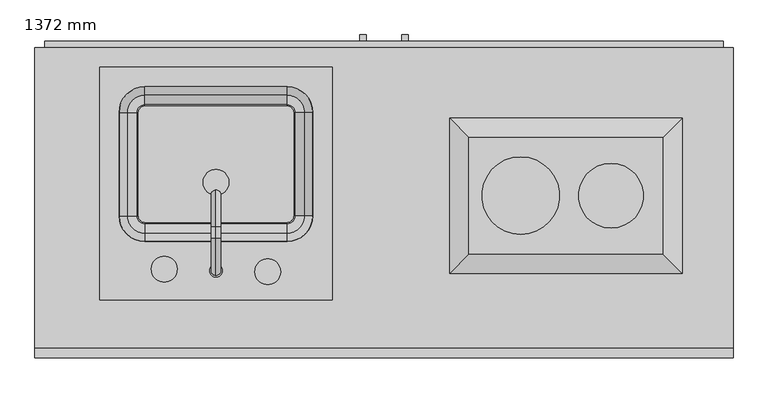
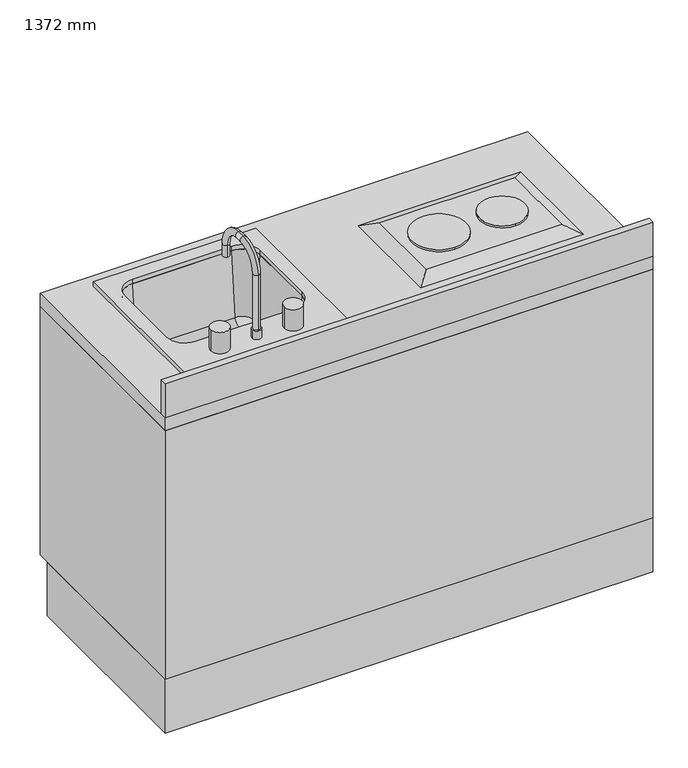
"""IFC4 building model written with IfcOpenShell, lengths in millimetres: proxy geometry, Kitchenette - Petite : 1372 mm."""

from ifc_helpers import new_model, si_unit, point, frame, frame_2d, origin, origin_with_axes, place, context, project, spatial, polyline, circle_curve, ellipse_curve, trimmed, segment, composite_curve, outline, extrude, faceted_brep, source, transform, mapped, element, save
from ifc_brep_helpers import plane_surface, cylinder_surface, revolved_surface, advanced_brep


def proxy_1372_mm_d0553526(model_context):
    return source(origin(), model_context, "Body", "SolidModel", [
        extrude(outline(composite_curve([segment(trimmed(circle_curve(frame_2d((287.2252049, 319.05)), 76.2), [point((287.2252049, 242.85))], [point((287.2252049, 395.25))], False, "CARTESIAN"), True, "CONTINUOUS"), segment(trimmed(circle_curve(frame_2d((287.2252049, 319.05)), 76.2), [point((287.2252049, 395.25))], [point((287.2252049, 242.85))], False, "CARTESIAN"), True, "CONTINUOUS")], self_intersect=False)), frame((0.0, 0.0, 957.15), z_axis=(0.0, 0.0, 1.0), x_axis=(1.0, 0.0, 0.0)), (0.0, 0.0, 1.0), 6.35),
        extrude(outline(composite_curve([segment(trimmed(circle_curve(frame_2d((464.8252049, 319.05)), 63.5), [point((464.8252049, 255.55))], [point((464.8252049, 382.55))], False, "CARTESIAN"), True, "CONTINUOUS"), segment(trimmed(circle_curve(frame_2d((464.8252049, 319.05)), 63.5), [point((464.8252049, 382.55))], [point((464.8252049, 255.55))], False, "CARTESIAN"), True, "CONTINUOUS")], self_intersect=False)), frame((0.0, 0.0, 957.15), z_axis=(0.0, 0.0, 1.0), x_axis=(1.0, 0.0, 0.0)), (0.0, 0.0, 1.0), 6.35),
        faceted_brep([(185.6252049, 204.65, 957.15), (566.4252049, 204.65, 957.15), (566.4252049, 433.55, 957.15), (185.6252049, 433.55, 957.15), (147.5252049, 166.55, 938.1), (147.5252049, 471.55, 938.1), (604.5252049, 471.55, 938.1), (604.5252049, 166.55, 938.1)], [[[0, 1, 2, 3]], [[4, 5, 6, 7]], [[4, 0, 3, 5]], [[5, 3, 2, 6]], [[6, 2, 1, 7]], [[7, 1, 0, 4]]]),
        extrude(outline(composite_curve([segment(trimmed(circle_curve(frame_2d((-311.4622951, 171.45)), 12.7), [point((-324.1622951, 171.45))], [point((-298.7622951, 171.45))], False, "CARTESIAN"), True, "CONTINUOUS"), segment(trimmed(circle_curve(frame_2d((-311.4622951, 171.45)), 12.7), [point((-298.7622951, 171.45))], [point((-324.1622951, 171.45))], False, "CARTESIAN"), True, "CONTINUOUS")], self_intersect=False)), frame((0.0, 0.0, 950.8), z_axis=(0.0, 0.0, 1.0), x_axis=(1.0, 0.0, 0.0)), (0.0, 0.0, 1.0), 25.4),
        advanced_brep(
        [(-311.4622951, 161.925, 950.8), (-311.4622951, 180.975, 950.8), (-311.4622951, 180.975, 1138.125), (-311.4622951, 161.925, 1138.125), (-311.4622951, 234.95, 1192.1), (-311.4622951, 234.95, 1211.15), (-311.4622951, 257.175, 1192.1), (-311.4622951, 257.175, 1211.15), (-311.4622951, 311.15, 1138.125), (-311.4622951, 330.2, 1138.125), (-311.4622951, 330.2, 1103.2), (-311.4622951, 311.15, 1103.2)],
        [
            (0, 1, circle_curve(frame((-311.4622951, 171.45, 950.8), z_axis=(0.0, 0.0, -1.0), x_axis=(0.0, 1.0, 0.0)), 9.525)),
            (1, 0, circle_curve(frame((-311.4622951, 171.45, 950.8), z_axis=(0.0, 0.0, -1.0), x_axis=(0.0, 1.0, 0.0)), 9.525)),
            (1, 2),
            (2, 3, circle_curve(frame((-311.4622951, 171.45, 1138.125), z_axis=(0.0, 0.0, -1.0), x_axis=(0.0, 1.0, 0.0)), 9.525)),
            (3, 0),
            (3, 2, circle_curve(frame((-311.4622951, 171.45, 1138.125), z_axis=(0.0, 0.0, -1.0), x_axis=(0.0, 1.0, 0.0)), 9.525)),
            (4, 5, circle_curve(frame((-311.4622951, 234.95, 1201.625), z_axis=(0.0, -1.0, 0.0), x_axis=(0.0, 0.0, -1.0)), 9.525)),
            (5, 3, circle_curve(frame((-311.4622951, 234.95, 1138.125), z_axis=(1.0, 0.0, 0.0), x_axis=(0.0, -1.0, 0.0)), 73.025)),
            (2, 4, circle_curve(frame((-311.4622951, 234.95, 1138.125), z_axis=(-1.0, 0.0, 0.0), x_axis=(0.0, -1.0, 0.0)), 53.975)),
            (5, 4, circle_curve(frame((-311.4622951, 234.95, 1201.625), z_axis=(0.0, -1.0, 0.0), x_axis=(0.0, 0.0, -1.0)), 9.525)),
            (4, 6),
            (6, 7, circle_curve(frame((-311.4622951, 257.175, 1201.625), z_axis=(0.0, -1.0, 0.0), x_axis=(0.0, 0.0, -1.0)), 9.525)),
            (7, 5),
            (7, 6, circle_curve(frame((-311.4622951, 257.175, 1201.625), z_axis=(0.0, -1.0, 0.0), x_axis=(0.0, 0.0, -1.0)), 9.525)),
            (8, 9, circle_curve(frame((-311.4622951, 320.675, 1138.125), z_axis=(0.0, 0.0, 1.0), x_axis=(0.0, -1.0, 0.0)), 9.525)),
            (9, 7, circle_curve(frame((-311.4622951, 257.175, 1138.125), z_axis=(1.0, 0.0, 0.0), x_axis=(0.0, 0.0, 1.0)), 73.025)),
            (6, 8, circle_curve(frame((-311.4622951, 257.175, 1138.125), z_axis=(-1.0, 0.0, 0.0), x_axis=(0.0, 0.0, 1.0)), 53.975)),
            (9, 8, circle_curve(frame((-311.4622951, 320.675, 1138.125), z_axis=(0.0, 0.0, 1.0), x_axis=(0.0, -1.0, 0.0)), 9.525)),
            (10, 11, circle_curve(frame((-311.4622951, 320.675, 1103.2), z_axis=(0.0, 0.0, -1.0), x_axis=(0.0, -1.0, 0.0)), 9.525)),
            (11, 10, circle_curve(frame((-311.4622951, 320.675, 1103.2), z_axis=(0.0, 0.0, -1.0), x_axis=(0.0, -1.0, 0.0)), 9.525)),
            (8, 11),
            (10, 9),
        ],
        [
            plane_surface(frame((-311.4622951, 180.975, 950.8), z_axis=(0.0, 0.0, -1.0), x_axis=(1.0, 0.0, 0.0))),
            cylinder_surface(frame((-311.4622951, 171.45, 950.8), z_axis=(0.0, 0.0, -1.0), x_axis=(0.0, 1.0, 0.0)), 9.525),
            revolved_surface(trimmed(ellipse_curve(frame((-311.4622951, 171.45, 1138.125), z_axis=(0.0, 0.0, 1.0), x_axis=(0.0, 1.0, 0.0)), 9.525, 9.525), [point((-311.4622951, 161.925, 1138.125))], [point((-311.4622951, 180.975, 1138.125))], True, "CARTESIAN"), (-311.4622951, 234.95, 1138.125), (1.0, 0.0, 0.0)),
            revolved_surface(trimmed(ellipse_curve(frame((-311.4622951, 171.45, 1138.125), z_axis=(0.0, 0.0, 1.0), x_axis=(0.0, 1.0, 0.0)), 9.525, 9.525), [point((-311.4622951, 180.975, 1138.125))], [point((-311.4622951, 161.925, 1138.125))], True, "CARTESIAN"), (-311.4622951, 234.95, 1138.125), (1.0, 0.0, 0.0)),
            cylinder_surface(frame((-311.4622951, 234.95, 1201.625), z_axis=(0.0, -1.0, 0.0), x_axis=(0.0, 0.0, -1.0)), 9.525),
            revolved_surface(trimmed(ellipse_curve(frame((-311.4622951, 257.175, 1201.625), z_axis=(0.0, 1.0, 0.0), x_axis=(0.0, 0.0, -1.0)), 9.525, 9.525), [point((-311.4622951, 257.175, 1211.15))], [point((-311.4622951, 257.175, 1192.1))], True, "CARTESIAN"), (-311.4622951, 257.175, 1138.125), (1.0, 0.0, 0.0)),
            revolved_surface(trimmed(ellipse_curve(frame((-311.4622951, 257.175, 1201.625), z_axis=(0.0, 1.0, 0.0), x_axis=(0.0, 0.0, -1.0)), 9.525, 9.525), [point((-311.4622951, 257.175, 1192.1))], [point((-311.4622951, 257.175, 1211.15))], True, "CARTESIAN"), (-311.4622951, 257.175, 1138.125), (1.0, 0.0, 0.0)),
            plane_surface(frame((-311.4622951, 330.2, 1103.2), z_axis=(0.0, 0.0, -1.0), x_axis=(-1.0, 0.0, 0.0))),
            cylinder_surface(frame((-311.4622951, 320.675, 1138.125), z_axis=(0.0, 0.0, 1.0), x_axis=(0.0, -1.0, 0.0)), 9.525),
        ],
        [
            (0, [[1, 2]]),
            (1, [[3, 4, 5, -2]]),
            (1, [[-5, 6, -3, -1]]),
            (2, [[7, 8, -4, 9]]),
            (3, [[10, -9, -6, -8]]),
            (4, [[11, 12, 13, -7]]),
            (4, [[-13, 14, -11, -10]]),
            (5, [[15, 16, -12, 17]]),
            (6, [[18, -17, -14, -16]]),
            (7, [[19, 20]]),
            (8, [[21, -19, 22, -15]]),
            (8, [[-22, -20, -21, -18]]),
        ],
    ),
        extrude(outline(composite_curve([segment(trimmed(circle_curve(frame_2d((-413.0622951, 174.5287936)), 25.4), [point((-438.4622951, 174.5287936))], [point((-387.6622951, 174.5287936))], False, "CARTESIAN"), True, "CONTINUOUS"), segment(trimmed(circle_curve(frame_2d((-413.0622951, 174.5287936)), 25.4), [point((-387.6622951, 174.5287936))], [point((-438.4622951, 174.5287936))], False, "CARTESIAN"), True, "CONTINUOUS")], self_intersect=False)), frame((0.0, 0.0, 950.8), z_axis=(0.0, 0.0, 1.0), x_axis=(1.0, 0.0, 0.0)), (0.0, 0.0, 1.0), 63.5),
        extrude(outline(composite_curve([segment(trimmed(circle_curve(frame_2d((-209.8622951, 169.3320688)), 25.4), [point((-235.2622951, 169.3320688))], [point((-184.4622951, 169.3320688))], False, "CARTESIAN"), True, "CONTINUOUS"), segment(trimmed(circle_curve(frame_2d((-209.8622951, 169.3320688)), 25.4), [point((-184.4622951, 169.3320688))], [point((-235.2622951, 169.3320688))], False, "CARTESIAN"), True, "CONTINUOUS")], self_intersect=False)), frame((0.0, 0.0, 950.8), z_axis=(0.0, 0.0, 1.0), x_axis=(1.0, 0.0, 0.0)), (0.0, 0.0, 1.0), 63.5),
        extrude(outline(composite_curve([segment(polyline([(-171.7622951, 266.7), (-451.1622951, 266.7)]), True, "CONTINUOUS"), segment(trimmed(circle_curve(frame_2d((-451.1622951, 279.4)), 12.7), [point((-451.1622951, 266.7))], [point((-463.8622951, 279.4))], False, "CARTESIAN"), True, "CONTINUOUS"), segment(polyline([(-463.8622951, 279.4), (-463.8622951, 482.6)]), True, "CONTINUOUS"), segment(trimmed(circle_curve(frame_2d((-451.1622951, 482.6)), 12.7), [point((-463.8622951, 482.6))], [point((-451.1622951, 495.3))], False, "CARTESIAN"), True, "CONTINUOUS"), segment(polyline([(-451.1622951, 495.3), (-171.7622951, 495.3)]), True, "CONTINUOUS"), segment(trimmed(circle_curve(frame_2d((-171.7622951, 482.6)), 12.7), [point((-171.7622951, 495.3))], [point((-159.0622951, 482.6))], False, "CARTESIAN"), True, "CONTINUOUS"), segment(polyline([(-159.0622951, 482.6), (-159.0622951, 279.4)]), True, "CONTINUOUS"), segment(trimmed(circle_curve(frame_2d((-171.7622951, 279.4)), 12.7), [point((-159.0622951, 279.4))], [point((-171.7622951, 266.7))], False, "CARTESIAN"), True, "CONTINUOUS")], self_intersect=False), holes=[composite_curve([segment(trimmed(circle_curve(frame_2d((-311.4622951, 345.2454011)), 25.4), [point((-336.8622951, 345.2454011))], [point((-286.0622951, 345.2454011))], True, "CARTESIAN"), True, "CONTINUOUS"), segment(trimmed(circle_curve(frame_2d((-311.4622951, 345.2454011)), 25.4), [point((-286.0622951, 345.2454011))], [point((-336.8622951, 345.2454011))], True, "CARTESIAN"), True, "CONTINUOUS")], self_intersect=False)]), frame((0.0, 0.0, 722.2), z_axis=(0.0, 0.0, 1.0), x_axis=(1.0, 0.0, 0.0)), (0.0, 0.0, 1.0), 9.525),
        advanced_brep(
        [(-114.6122951, 279.4, 722.2), (-114.6122951, 279.4, 938.1), (-171.7622951, 222.25, 938.1), (-171.7622951, 222.25, 722.2), (-159.0622951, 279.4, 722.2), (-171.7622951, 266.7, 722.2), (-159.0622951, 279.4, 731.725), (-171.7622951, 266.7, 731.725), (-156.4738769, 279.4, 731.725), (-171.7622951, 264.1115818, 731.725), (-137.4963679, 279.4, 749.1146831), (-171.7622951, 245.1340728, 749.1146831), (-120.9622951, 279.4, 938.1), (-171.7622951, 228.6, 938.1), (-114.6122951, 482.6, 722.2), (-114.6122951, 482.6, 938.1), (-159.0622951, 482.6, 722.2), (-159.0622951, 482.6, 731.725), (-156.4738769, 482.6, 731.725), (-137.4963679, 482.6, 749.1146831), (-120.9622951, 482.6, 938.1), (-171.7622951, 539.75, 722.2), (-171.7622951, 539.75, 938.1), (-171.7622951, 495.3, 722.2), (-171.7622951, 495.3, 731.725), (-171.7622951, 497.8884182, 731.725), (-171.7622951, 516.8659272, 749.1146831), (-171.7622951, 533.4, 938.1), (-451.1622951, 539.75, 722.2), (-451.1622951, 539.75, 938.1), (-451.1622951, 495.3, 722.2), (-451.1622951, 495.3, 731.725), (-451.1622951, 497.8884182, 731.725), (-451.1622951, 516.8659272, 749.1146831), (-451.1622951, 533.4, 938.1), (-508.3122951, 482.6, 722.2), (-508.3122951, 482.6, 938.1), (-463.8622951, 482.6, 722.2), (-463.8622951, 482.6, 731.725), (-466.4507133, 482.6, 731.725), (-485.4282223, 482.6, 749.1146831), (-501.9622951, 482.6, 938.1), (-508.3122951, 279.4, 722.2), (-508.3122951, 279.4, 938.1), (-463.8622951, 279.4, 722.2), (-463.8622951, 279.4, 731.725), (-466.4507133, 279.4, 731.725), (-485.4282223, 279.4, 749.1146831), (-501.9622951, 279.4, 938.1), (-451.1622951, 222.25, 722.2), (-451.1622951, 222.25, 938.1), (-451.1622951, 266.7, 722.2), (-451.1622951, 266.7, 731.725), (-451.1622951, 264.1115818, 731.725), (-451.1622951, 245.1340728, 749.1146831), (-451.1622951, 228.6, 938.1)],
        [
            (0, 1),
            (1, 2, circle_curve(frame((-171.7622951, 279.4, 938.1), z_axis=(0.0, 0.0, -1.0), x_axis=(0.0, -1.0, 0.0)), 57.15)),
            (2, 3),
            (3, 0, circle_curve(frame((-171.7622951, 279.4, 722.2), z_axis=(0.0, 0.0, 1.0), x_axis=(0.0, -1.0, 0.0)), 57.15)),
            (4, 0),
            (3, 5),
            (5, 4, circle_curve(frame((-171.7622951, 279.4, 722.2), z_axis=(0.0, 0.0, 1.0), x_axis=(0.0, -1.0, 0.0)), 12.7)),
            (6, 4),
            (5, 7),
            (7, 6, circle_curve(frame((-171.7622951, 279.4, 731.725), z_axis=(0.0, 0.0, 1.0), x_axis=(0.0, -1.0, 0.0)), 12.7)),
            (8, 6),
            (7, 9),
            (9, 8, circle_curve(frame((-171.7622951, 279.4, 731.725), z_axis=(0.0, 0.0, 1.0), x_axis=(0.0, -1.0, 0.0)), 15.2884182)),
            (10, 8, circle_curve(frame((-156.4738769, 279.4, 750.775), z_axis=(0.0, 1.0, 0.0), x_axis=(1.0, 0.0, 0.0)), 19.05)),
            (9, 11, circle_curve(frame((-171.7622951, 264.1115818, 750.775), z_axis=(-1.0, 0.0, 0.0), x_axis=(0.0, -1.0, 0.0)), 19.05)),
            (11, 10, circle_curve(frame((-171.7622951, 279.4, 749.1146831), z_axis=(0.0, 0.0, 1.0), x_axis=(0.0, -1.0, 0.0)), 34.2659272)),
            (12, 10),
            (11, 13),
            (13, 12, circle_curve(frame((-171.7622951, 279.4, 938.1), z_axis=(0.0, 0.0, 1.0), x_axis=(0.0, -1.0, 0.0)), 50.8)),
            (1, 12),
            (13, 2),
            (0, 14),
            (14, 15),
            (15, 1),
            (4, 16),
            (16, 14),
            (6, 17),
            (17, 16),
            (8, 18),
            (18, 17),
            (10, 19),
            (19, 18, circle_curve(frame((-156.4738769, 482.6, 750.775), z_axis=(0.0, 1.0, 0.0), x_axis=(1.0, 0.0, 0.0)), 19.05)),
            (12, 20),
            (20, 19),
            (15, 20),
            (21, 22),
            (22, 15, circle_curve(frame((-171.7622951, 482.6, 938.1), z_axis=(0.0, 0.0, -1.0), x_axis=(1.0, 0.0, 0.0)), 57.15)),
            (14, 21, circle_curve(frame((-171.7622951, 482.6, 722.2), z_axis=(0.0, 0.0, 1.0), x_axis=(1.0, 0.0, 0.0)), 57.15)),
            (23, 21),
            (16, 23, circle_curve(frame((-171.7622951, 482.6, 722.2), z_axis=(0.0, 0.0, 1.0), x_axis=(1.0, 0.0, 0.0)), 12.7)),
            (24, 23),
            (17, 24, circle_curve(frame((-171.7622951, 482.6, 731.725), z_axis=(0.0, 0.0, 1.0), x_axis=(1.0, 0.0, 0.0)), 12.7)),
            (25, 24),
            (18, 25, circle_curve(frame((-171.7622951, 482.6, 731.725), z_axis=(0.0, 0.0, 1.0), x_axis=(1.0, 0.0, 0.0)), 15.2884182)),
            (26, 25, circle_curve(frame((-171.7622951, 497.8884182, 750.775), z_axis=(-1.0, 0.0, 0.0), x_axis=(0.0, 1.0, 0.0)), 19.05)),
            (19, 26, circle_curve(frame((-171.7622951, 482.6, 749.1146831), z_axis=(0.0, 0.0, 1.0), x_axis=(1.0, 0.0, 0.0)), 34.2659272)),
            (27, 26),
            (20, 27, circle_curve(frame((-171.7622951, 482.6, 938.1), z_axis=(0.0, 0.0, 1.0), x_axis=(1.0, 0.0, 0.0)), 50.8)),
            (22, 27),
            (21, 28),
            (28, 29),
            (29, 22),
            (23, 30),
            (30, 28),
            (24, 31),
            (31, 30),
            (25, 32),
            (32, 31),
            (26, 33),
            (33, 32, circle_curve(frame((-451.1622951, 497.8884182, 750.775), z_axis=(-1.0, 0.0, 0.0), x_axis=(0.0, 1.0, 0.0)), 19.05)),
            (27, 34),
            (34, 33),
            (29, 34),
            (35, 36),
            (36, 29, circle_curve(frame((-451.1622951, 482.6, 938.1), z_axis=(0.0, 0.0, -1.0), x_axis=(0.0, 1.0, 0.0)), 57.15)),
            (28, 35, circle_curve(frame((-451.1622951, 482.6, 722.2), z_axis=(0.0, 0.0, 1.0), x_axis=(0.0, 1.0, 0.0)), 57.15)),
            (37, 35),
            (30, 37, circle_curve(frame((-451.1622951, 482.6, 722.2), z_axis=(0.0, 0.0, 1.0), x_axis=(0.0, 1.0, 0.0)), 12.7)),
            (38, 37),
            (31, 38, circle_curve(frame((-451.1622951, 482.6, 731.725), z_axis=(0.0, 0.0, 1.0), x_axis=(0.0, 1.0, 0.0)), 12.7)),
            (39, 38),
            (32, 39, circle_curve(frame((-451.1622951, 482.6, 731.725), z_axis=(0.0, 0.0, 1.0), x_axis=(0.0, 1.0, 0.0)), 15.2884182)),
            (40, 39, circle_curve(frame((-466.4507133, 482.6, 750.775), z_axis=(0.0, -1.0, 0.0), x_axis=(-1.0, 0.0, 0.0)), 19.05)),
            (33, 40, circle_curve(frame((-451.1622951, 482.6, 749.1146831), z_axis=(0.0, 0.0, 1.0), x_axis=(0.0, 1.0, 0.0)), 34.2659272)),
            (41, 40),
            (34, 41, circle_curve(frame((-451.1622951, 482.6, 938.1), z_axis=(0.0, 0.0, 1.0), x_axis=(0.0, 1.0, 0.0)), 50.8)),
            (36, 41),
            (35, 42),
            (42, 43),
            (43, 36),
            (37, 44),
            (44, 42),
            (38, 45),
            (45, 44),
            (39, 46),
            (46, 45),
            (40, 47),
            (47, 46, circle_curve(frame((-466.4507133, 279.4, 750.775), z_axis=(0.0, -1.0, 0.0), x_axis=(-1.0, 0.0, 0.0)), 19.05)),
            (41, 48),
            (48, 47),
            (43, 48),
            (49, 50),
            (50, 43, circle_curve(frame((-451.1622951, 279.4, 938.1), z_axis=(0.0, 0.0, -1.0), x_axis=(-1.0, 0.0, 0.0)), 57.15)),
            (42, 49, circle_curve(frame((-451.1622951, 279.4, 722.2), z_axis=(0.0, 0.0, 1.0), x_axis=(-1.0, 0.0, 0.0)), 57.15)),
            (51, 49),
            (44, 51, circle_curve(frame((-451.1622951, 279.4, 722.2), z_axis=(0.0, 0.0, 1.0), x_axis=(-1.0, 0.0, 0.0)), 12.7)),
            (52, 51),
            (45, 52, circle_curve(frame((-451.1622951, 279.4, 731.725), z_axis=(0.0, 0.0, 1.0), x_axis=(-1.0, 0.0, 0.0)), 12.7)),
            (53, 52),
            (46, 53, circle_curve(frame((-451.1622951, 279.4, 731.725), z_axis=(0.0, 0.0, 1.0), x_axis=(-1.0, 0.0, 0.0)), 15.2884182)),
            (54, 53, circle_curve(frame((-451.1622951, 264.1115818, 750.775), z_axis=(1.0, 0.0, 0.0), x_axis=(0.0, -1.0, 0.0)), 19.05)),
            (47, 54, circle_curve(frame((-451.1622951, 279.4, 749.1146831), z_axis=(0.0, 0.0, 1.0), x_axis=(-1.0, 0.0, 0.0)), 34.2659272)),
            (55, 54),
            (48, 55, circle_curve(frame((-451.1622951, 279.4, 938.1), z_axis=(0.0, 0.0, 1.0), x_axis=(-1.0, 0.0, 0.0)), 50.8)),
            (50, 55),
            (49, 3),
            (2, 50),
            (51, 5),
            (52, 7),
            (53, 9),
            (54, 11),
            (55, 13),
        ],
        [
            cylinder_surface(frame((-171.7622951, 279.4, 23.7), z_axis=(0.0, 0.0, -1.0), x_axis=(0.0, -1.0, 0.0)), 57.15),
            plane_surface(frame((-171.7622951, 279.4, 722.2), z_axis=(0.0, 0.0, -1.0), x_axis=(0.0, -1.0, 0.0))),
            revolved_surface(polyline([(-171.7622951, 266.7, 722.2), (-171.7622951, 266.7, 731.725)]), (-171.7622951, 279.4, 23.7), (0.0, 0.0, -1.0)),
            plane_surface(frame((-171.7622951, 279.4, 731.725), z_axis=(0.0, 0.0, 1.0), x_axis=(0.0, -1.0, 0.0))),
            revolved_surface(trimmed(ellipse_curve(frame((-171.7622951, 264.1115818, 750.775), z_axis=(-1.0, 0.0, 0.0), x_axis=(0.0, -1.0, 0.0)), 19.05, 19.05), [point((-171.7622951, 264.1115818, 731.725))], [point((-171.7622951, 245.1340728, 749.1146831))], True, "CARTESIAN"), (-171.7622951, 279.4, 23.7), (0.0, 0.0, -1.0)),
            revolved_surface(polyline([(-171.7622951, 245.1340728, 749.1146831), (-171.7622951, 228.6, 938.1)]), (-171.7622951, 279.4, 23.7), (0.0, 0.0, -1.0)),
            plane_surface(frame((-171.7622951, 279.4, 938.1), z_axis=(0.0, 0.0, 1.0), x_axis=(0.0, -1.0, 0.0))),
            plane_surface(frame((-114.6122951, 279.4, 938.1), z_axis=(1.0, 0.0, 0.0), x_axis=(0.0, 1.0, 0.0))),
            plane_surface(frame((-114.6122951, 279.4, 722.2), z_axis=(0.0, 0.0, -1.0), x_axis=(0.0, 1.0, 0.0))),
            plane_surface(frame((-159.0622951, 279.4, 722.2), z_axis=(-1.0, 0.0, 0.0), x_axis=(0.0, 1.0, 0.0))),
            plane_surface(frame((-159.0622951, 279.4, 731.725), z_axis=(0.0, 0.0, 1.0), x_axis=(0.0, 1.0, 0.0))),
            revolved_surface(polyline([(-137.42387689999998, 482.6, 750.775), (-137.42387689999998, 279.4, 750.775)]), (-156.4738769, 279.4, 750.775), (0.0, 1.0, 0.0)),
            plane_surface(frame((-137.4963679, 279.4, 749.1146831), z_axis=(-0.9961946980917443, 0.0, 0.08715574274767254), x_axis=(0.0, 1.0, 0.0))),
            plane_surface(frame((-120.9622951, 279.4, 938.1), z_axis=(0.0, 0.0, 1.0), x_axis=(0.0, 1.0, 0.0))),
            cylinder_surface(frame((-171.7622951, 482.6, 23.7), z_axis=(0.0, 0.0, -1.0), x_axis=(1.0, 0.0, 0.0)), 57.15),
            plane_surface(frame((-171.7622951, 482.6, 722.2), z_axis=(0.0, 0.0, -1.0), x_axis=(1.0, 0.0, 0.0))),
            revolved_surface(polyline([(-159.0622951, 482.6, 722.2), (-159.0622951, 482.6, 731.725)]), (-171.7622951, 482.6, 23.7), (0.0, 0.0, -1.0)),
            plane_surface(frame((-171.7622951, 482.6, 731.725), z_axis=(0.0, 0.0, 1.0), x_axis=(1.0, 0.0, 0.0))),
            revolved_surface(trimmed(ellipse_curve(frame((-156.4738769, 482.6, 750.775), z_axis=(0.0, -1.0, 0.0), x_axis=(1.0, 0.0, 0.0)), 19.05, 19.05), [point((-156.4738769, 482.6, 731.725))], [point((-137.4963679, 482.6, 749.1146831))], True, "CARTESIAN"), (-171.7622951, 482.6, 23.7), (0.0, 0.0, -1.0)),
            revolved_surface(polyline([(-137.4963679, 482.6, 749.1146831), (-120.9622951, 482.6, 938.1)]), (-171.7622951, 482.6, 23.7), (0.0, 0.0, -1.0)),
            plane_surface(frame((-171.7622951, 482.6, 938.1), z_axis=(0.0, 0.0, 1.0), x_axis=(1.0, 0.0, 0.0))),
            plane_surface(frame((-171.7622951, 539.75, 938.1), z_axis=(0.0, 1.0, 0.0), x_axis=(-1.0, 0.0, 0.0))),
            plane_surface(frame((-171.7622951, 539.75, 722.2), z_axis=(0.0, 0.0, -1.0), x_axis=(-1.0, 0.0, 0.0))),
            plane_surface(frame((-171.7622951, 495.3, 722.2), z_axis=(0.0, -1.0, 0.0), x_axis=(-1.0, 0.0, 0.0))),
            plane_surface(frame((-171.7622951, 495.3, 731.725), z_axis=(0.0, 0.0, 1.0), x_axis=(-1.0, 0.0, 0.0))),
            revolved_surface(polyline([(-451.16229509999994, 516.9384182, 750.775), (-171.7622951, 516.9384182, 750.775)]), (-171.7622951, 497.8884182, 750.775), (-1.0, 0.0, 0.0)),
            plane_surface(frame((-171.7622951, 516.8659272, 749.1146831), z_axis=(0.0, -0.9961946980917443, 0.08715574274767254), x_axis=(-1.0, 0.0, 0.0))),
            plane_surface(frame((-171.7622951, 533.4, 938.1), z_axis=(0.0, 0.0, 1.0), x_axis=(-1.0, 0.0, 0.0))),
            cylinder_surface(frame((-451.1622951, 482.6, 23.7), z_axis=(0.0, 0.0, -1.0), x_axis=(0.0, 1.0, 0.0)), 57.15),
            plane_surface(frame((-451.1622951, 482.6, 722.2), z_axis=(0.0, 0.0, -1.0), x_axis=(0.0, 1.0, 0.0))),
            revolved_surface(polyline([(-451.1622951, 495.3, 722.2), (-451.1622951, 495.3, 731.725)]), (-451.1622951, 482.6, 23.7), (0.0, 0.0, -1.0)),
            plane_surface(frame((-451.1622951, 482.6, 731.725), z_axis=(0.0, 0.0, 1.0), x_axis=(0.0, 1.0, 0.0))),
            revolved_surface(trimmed(ellipse_curve(frame((-451.1622951, 497.8884182, 750.775), z_axis=(1.0, 0.0, 0.0), x_axis=(0.0, 1.0, 0.0)), 19.05, 19.05), [point((-451.1622951, 497.8884182, 731.725))], [point((-451.1622951, 516.8659272, 749.1146831))], True, "CARTESIAN"), (-451.1622951, 482.6, 23.7), (0.0, 0.0, -1.0)),
            revolved_surface(polyline([(-451.1622951, 516.8659272, 749.1146831), (-451.1622951, 533.4, 938.1)]), (-451.1622951, 482.6, 23.7), (0.0, 0.0, -1.0)),
            plane_surface(frame((-451.1622951, 482.6, 938.1), z_axis=(0.0, 0.0, 1.0), x_axis=(0.0, 1.0, 0.0))),
            plane_surface(frame((-508.3122951, 482.6, 938.1), z_axis=(-1.0, 0.0, 0.0), x_axis=(0.0, -1.0, 0.0))),
            plane_surface(frame((-508.3122951, 482.6, 722.2), z_axis=(0.0, 0.0, -1.0), x_axis=(0.0, -1.0, 0.0))),
            plane_surface(frame((-463.8622951, 482.6, 722.2), z_axis=(1.0, 0.0, 0.0), x_axis=(0.0, -1.0, 0.0))),
            plane_surface(frame((-463.8622951, 482.6, 731.725), z_axis=(0.0, 0.0, 1.0), x_axis=(0.0, -1.0, 0.0))),
            revolved_surface(polyline([(-485.50071330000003, 279.4, 750.775), (-485.50071330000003, 482.6, 750.775)]), (-466.4507133, 482.6, 750.775), (0.0, -1.0, 0.0)),
            plane_surface(frame((-485.4282223, 482.6, 749.1146831), z_axis=(0.9961946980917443, 0.0, 0.08715574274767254), x_axis=(0.0, -1.0, 0.0))),
            plane_surface(frame((-501.9622951, 482.6, 938.1), z_axis=(0.0, 0.0, 1.0), x_axis=(0.0, -1.0, 0.0))),
            cylinder_surface(frame((-451.1622951, 279.4, 23.7), z_axis=(0.0, 0.0, -1.0), x_axis=(-1.0, 0.0, 0.0)), 57.15),
            plane_surface(frame((-451.1622951, 279.4, 722.2), z_axis=(0.0, 0.0, -1.0), x_axis=(-1.0, 0.0, 0.0))),
            revolved_surface(polyline([(-463.8622951, 279.4, 722.2), (-463.8622951, 279.4, 731.725)]), (-451.1622951, 279.4, 23.7), (0.0, 0.0, -1.0)),
            plane_surface(frame((-451.1622951, 279.4, 731.725), z_axis=(0.0, 0.0, 1.0), x_axis=(-1.0, 0.0, 0.0))),
            revolved_surface(trimmed(ellipse_curve(frame((-466.4507133, 279.4, 750.775), z_axis=(0.0, 1.0, 0.0), x_axis=(-1.0, 0.0, 0.0)), 19.05, 19.05), [point((-466.4507133, 279.4, 731.725))], [point((-485.4282223, 279.4, 749.1146831))], True, "CARTESIAN"), (-451.1622951, 279.4, 23.7), (0.0, 0.0, -1.0)),
            revolved_surface(polyline([(-485.4282223, 279.4, 749.1146831), (-501.9622951, 279.4, 938.1)]), (-451.1622951, 279.4, 23.7), (0.0, 0.0, -1.0)),
            plane_surface(frame((-451.1622951, 279.4, 938.1), z_axis=(0.0, 0.0, 1.0), x_axis=(-1.0, 0.0, 0.0))),
            plane_surface(frame((-451.1622951, 222.25, 938.1), z_axis=(0.0, -1.0, 0.0), x_axis=(1.0, 0.0, 0.0))),
            plane_surface(frame((-451.1622951, 222.25, 722.2), z_axis=(0.0, 0.0, -1.0), x_axis=(1.0, 0.0, 0.0))),
            plane_surface(frame((-451.1622951, 266.7, 722.2), z_axis=(0.0, 1.0, 0.0), x_axis=(1.0, 0.0, 0.0))),
            plane_surface(frame((-451.1622951, 266.7, 731.725), z_axis=(0.0, 0.0, 1.0), x_axis=(1.0, 0.0, 0.0))),
            revolved_surface(polyline([(-171.76229510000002, 245.0615818, 750.775), (-451.1622951, 245.0615818, 750.775)]), (-451.1622951, 264.1115818, 750.775), (1.0, 0.0, 0.0)),
            plane_surface(frame((-451.1622951, 245.1340728, 749.1146831), z_axis=(0.0, 0.9961946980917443, 0.08715574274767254), x_axis=(1.0, 0.0, 0.0))),
            plane_surface(frame((-451.1622951, 228.6, 938.1), z_axis=(0.0, 0.0, 1.0), x_axis=(1.0, 0.0, 0.0))),
        ],
        [
            (0, [[1, 2, 3, 4]]),
            (1, [[5, -4, 6, 7]]),
            (2, [[8, -7, 9, 10]]),
            (3, [[11, -10, 12, 13]]),
            (4, [[14, -13, 15, 16]]),
            (5, [[17, -16, 18, 19]]),
            (6, [[20, -19, 21, -2]]),
            (7, [[22, 23, 24, -1]]),
            (8, [[25, 26, -22, -5]]),
            (9, [[27, 28, -25, -8]]),
            (10, [[29, 30, -27, -11]]),
            (11, [[31, 32, -29, -14]]),
            (12, [[33, 34, -31, -17]]),
            (13, [[-24, 35, -33, -20]]),
            (14, [[36, 37, -23, 38]]),
            (15, [[39, -38, -26, 40]]),
            (16, [[41, -40, -28, 42]]),
            (17, [[43, -42, -30, 44]]),
            (18, [[45, -44, -32, 46]]),
            (19, [[47, -46, -34, 48]]),
            (20, [[49, -48, -35, -37]]),
            (21, [[50, 51, 52, -36]]),
            (22, [[53, 54, -50, -39]]),
            (23, [[55, 56, -53, -41]]),
            (24, [[57, 58, -55, -43]]),
            (25, [[59, 60, -57, -45]]),
            (26, [[61, 62, -59, -47]]),
            (27, [[-52, 63, -61, -49]]),
            (28, [[64, 65, -51, 66]]),
            (29, [[67, -66, -54, 68]]),
            (30, [[69, -68, -56, 70]]),
            (31, [[71, -70, -58, 72]]),
            (32, [[73, -72, -60, 74]]),
            (33, [[75, -74, -62, 76]]),
            (34, [[77, -76, -63, -65]]),
            (35, [[78, 79, 80, -64]]),
            (36, [[81, 82, -78, -67]]),
            (37, [[83, 84, -81, -69]]),
            (38, [[85, 86, -83, -71]]),
            (39, [[87, 88, -85, -73]]),
            (40, [[89, 90, -87, -75]]),
            (41, [[-80, 91, -89, -77]]),
            (42, [[92, 93, -79, 94]]),
            (43, [[95, -94, -82, 96]]),
            (44, [[97, -96, -84, 98]]),
            (45, [[99, -98, -86, 100]]),
            (46, [[101, -100, -88, 102]]),
            (47, [[103, -102, -90, 104]]),
            (48, [[105, -104, -91, -93]]),
            (49, [[106, -3, 107, -92]]),
            (50, [[108, -6, -106, -95]]),
            (51, [[109, -9, -108, -97]]),
            (52, [[110, -12, -109, -99]]),
            (53, [[111, -15, -110, -101]]),
            (54, [[112, -18, -111, -103]]),
            (55, [[-107, -21, -112, -105]]),
        ],
    ),
        extrude(outline(polyline([(-82.8622951, 114.3), (-540.0622951, 114.3), (-540.0622951, 571.5), (-82.8622951, 571.5), (-82.8622951, 114.3)]), holes=[composite_curve([segment(trimmed(circle_curve(frame_2d((-171.7622951, 279.4)), 50.8), [point((-171.7622951, 228.6))], [point((-120.9622951, 279.4))], True, "CARTESIAN"), True, "CONTINUOUS"), segment(polyline([(-120.9622951, 279.4), (-120.9622951, 482.6)]), True, "CONTINUOUS"), segment(trimmed(circle_curve(frame_2d((-171.7622951, 482.6)), 50.8), [point((-120.9622951, 482.6))], [point((-171.7622951, 533.4))], True, "CARTESIAN"), True, "CONTINUOUS"), segment(polyline([(-171.7622951, 533.4), (-451.1622951, 533.4)]), True, "CONTINUOUS"), segment(trimmed(circle_curve(frame_2d((-451.1622951, 482.6)), 50.8), [point((-451.1622951, 533.4))], [point((-501.9622951, 482.6))], True, "CARTESIAN"), True, "CONTINUOUS"), segment(polyline([(-501.9622951, 482.6), (-501.9622951, 279.4)]), True, "CONTINUOUS"), segment(trimmed(circle_curve(frame_2d((-451.1622951, 279.4)), 50.8), [point((-501.9622951, 279.4))], [point((-451.1622951, 228.6))], True, "CARTESIAN"), True, "CONTINUOUS"), segment(polyline([(-451.1622951, 228.6), (-171.7622951, 228.6)]), True, "CONTINUOUS")], self_intersect=False)]), frame((0.0, 0.0, 938.1), z_axis=(0.0, 0.0, 1.0), x_axis=(1.0, 0.0, 0.0)), (0.0, 0.0, 1.0), 12.7),
        extrude(outline(polyline([(-667.2622951, 0.0), (-667.2622951, 19.05), (704.7377049, 19.05), (704.7377049, 0.0), (-667.2622951, 0.0)])), frame((0.0, 0.0, 938.1), z_axis=(0.0, 0.0, 1.0), x_axis=(1.0, 0.0, 0.0)), (0.0, 0.0, 1.0), 101.6),
        extrude(outline(polyline([(704.7377049, 0.0), (-667.2622951, 0.0), (-667.2622951, 610.0), (704.7377049, 610.0), (704.7377049, 0.0)]), holes=[composite_curve([segment(trimmed(circle_curve(frame_2d((-146.3622951, 190.5)), 50.8), [point((-146.3622951, 139.7))], [point((-95.5622951, 190.5))], True, "CARTESIAN"), True, "CONTINUOUS"), segment(polyline([(-95.5622951, 190.5), (-95.5622951, 495.3)]), True, "CONTINUOUS"), segment(trimmed(circle_curve(frame_2d((-146.3622951, 495.3)), 50.8), [point((-95.5622951, 495.3))], [point((-146.3622951, 546.1))], True, "CARTESIAN"), True, "CONTINUOUS"), segment(polyline([(-146.3622951, 546.1), (-476.5622951, 546.1)]), True, "CONTINUOUS"), segment(trimmed(circle_curve(frame_2d((-476.5622951, 495.3)), 50.8), [point((-476.5622951, 546.1))], [point((-527.3622951, 495.3))], True, "CARTESIAN"), True, "CONTINUOUS"), segment(polyline([(-527.3622951, 495.3), (-527.3622951, 190.5)]), True, "CONTINUOUS"), segment(trimmed(circle_curve(frame_2d((-476.5622951, 190.5)), 50.8), [point((-527.3622951, 190.5))], [point((-476.5622951, 139.7))], True, "CARTESIAN"), True, "CONTINUOUS"), segment(polyline([(-476.5622951, 139.7), (-146.3622951, 139.7)]), True, "CONTINUOUS")], self_intersect=False)]), frame((0.0, 0.0, 900.0), z_axis=(0.0, 0.0, 1.0), x_axis=(1.0, 0.0, 0.0)), (0.0, 0.0, 1.0), 38.1),
        extrude(outline(polyline([(-16.1872951, 635.4), (-16.1872951, 622.7), (-28.8872951, 622.7), (-28.8872951, 635.4), (-16.1872951, 635.4)])), frame((0.0, 0.0, 597.469895), z_axis=(0.0, 0.0, 1.0), x_axis=(1.0, 0.0, 0.0)), (0.0, 0.0, 1.0), 124.730105),
        extrude(outline(polyline([(66.3627049, 635.4), (66.3627049, 622.7), (53.6627049, 622.7), (53.6627049, 635.4), (66.3627049, 635.4)])), frame((0.0, 0.0, 597.469895), z_axis=(0.0, 0.0, 1.0), x_axis=(1.0, 0.0, 0.0)), (0.0, 0.0, 1.0), 124.730105),
        extrude(outline(polyline([(685.6877049, 19.05), (-648.2122951, 19.05), (-648.2122951, 590.95), (685.6877049, 590.95), (685.6877049, 19.05)])), frame((0.0, 0.0, 160.0), z_axis=(0.0, 0.0, 1.0), x_axis=(1.0, 0.0, 0.0)), (0.0, 0.0, 1.0), 19.05),
        faceted_brep([(685.6877049, 590.95, 900.0), (-648.2122951, 590.95, 900.0), (-648.2122951, 590.95, 160.0), (685.6877049, 590.95, 160.0), (704.7377049, 610.0, 900.0), (-667.2622951, 610.0, 900.0), (704.7377049, 610.0, 160.0), (-667.2622951, 610.0, 160.0), (-648.2122951, 19.05, 900.0), (-648.2122951, 19.05, 160.0), (-667.2622951, 0.0, 900.0), (-667.2622951, 0.0, 160.0), (685.6877049, 19.05, 900.0), (685.6877049, 19.05, 160.0), (704.7377049, 0.0, 900.0), (704.7377049, 0.0, 160.0)], [[[0, 1, 2, 3]], [[4, 5, 1, 0]], [[6, 7, 5, 4]], [[3, 2, 7, 6]], [[1, 8, 9, 2]], [[5, 10, 8, 1]], [[7, 11, 10, 5]], [[2, 9, 11, 7]], [[8, 12, 13, 9]], [[10, 14, 12, 8]], [[11, 15, 14, 10]], [[9, 13, 15, 11]], [[12, 0, 3, 13]], [[14, 4, 0, 12]], [[15, 6, 4, 14]], [[13, 3, 6, 15]]]),
        extrude(outline(polyline([(704.7377049, 0.0), (-667.2622951, 0.0), (-667.2622951, 575.0), (704.7377049, 575.0), (704.7377049, 0.0)])), origin_with_axes(), (0.0, 0.0, 1.0), 160.0),
        extrude(outline(polyline([(9.2127049, 622.7), (9.2127049, 610.0), (-648.2122951, 610.0), (-648.2122951, 622.7), (9.2127049, 622.7)])), frame((0.0, 0.0, 179.05), z_axis=(0.0, 0.0, 1.0), x_axis=(1.0, 0.0, 0.0)), (0.0, 0.0, 1.0), 581.25),
        extrude(outline(polyline([(685.6877049, 622.7), (685.6877049, 610.0), (28.2627049, 610.0), (28.2627049, 622.7), (685.6877049, 622.7)])), frame((0.0, 0.0, 179.05), z_axis=(0.0, 0.0, 1.0), x_axis=(1.0, 0.0, 0.0)), (0.0, 0.0, 1.0), 581.25),
        extrude(outline(polyline([(685.6877049, 622.7), (685.6877049, 610.0), (-648.2122951, 610.0), (-648.2122951, 622.7), (685.6877049, 622.7)])), frame((0.0, 0.0, 779.35), z_axis=(0.0, 0.0, 1.0), x_axis=(1.0, 0.0, 0.0)), (0.0, 0.0, 1.0), 101.6),
    ])


if __name__ == "__main__":
    model = new_model("IFC4")
    model_context = context("Model", 3, world=origin())
    ifc_project = project(units=[si_unit("LENGTHUNIT", "METRE", prefix="MILLI")], contexts=[model_context])
    site = spatial("IfcSite", under=ifc_project)
    building = spatial("IfcBuilding", under=site)
    placement = place(None, origin())
    proxy_1372_mm_shape = proxy_1372_mm_d0553526(model_context)
    element("IfcBuildingElementProxy", 1, Name="Kitchenette - Petite : 1372 mm", ObjectType="Kitchenette - Petite : 1372 mm", at=placement, inside=building, context=model_context, shape_type="MappedRepresentation", body=[
        mapped(proxy_1372_mm_shape, transform((0.0, 0.0, 0.0), x_axis=(1.0, 0.0, 0.0), y_axis=(0.0, 1.0, 0.0), z_axis=(0.0, 0.0, 1.0))),
    ])
    save(model, "model.ifc")
